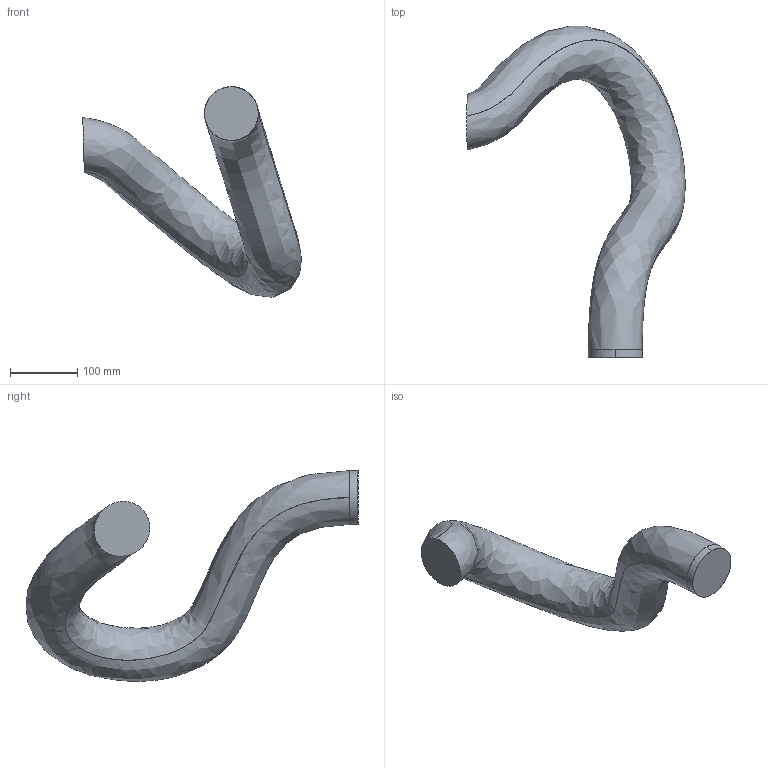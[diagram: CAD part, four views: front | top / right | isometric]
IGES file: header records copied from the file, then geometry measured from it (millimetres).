
Start section: SolidWorks IGES file using analytic representation for surfaces
Global section: file name: C:\Users\seamsto1\Desktop\Lättvikt\IRB6710-LID-MH_175kg-265_OC_00_SW_J\IRB6710-LID-MH_175kg-265_OC_00_IGES_J\IRB6710-LID_175kg-265_OC_00_LINK05_CABLE.IGS; native system: SolidWorks 2020; preprocessor: SolidWorks 2020; author: SEAMSTO1; date: 230510.124227; units: millimetre
Bounding box: 324.78 x 493.56 x 313.11 mm (x, y, z)
Surface area: 230685.3 mm2 (no closed solid volume)
Topology: 0 solids, 0 shells, 6 faces, 189 edges, 189 vertices
Faces by surface type: bspline 4, revolution 2
